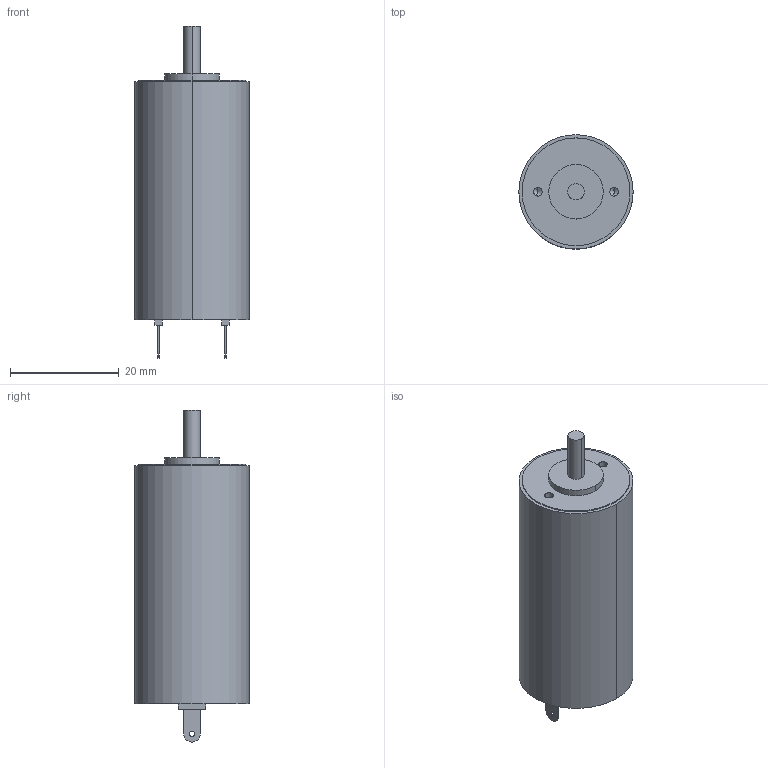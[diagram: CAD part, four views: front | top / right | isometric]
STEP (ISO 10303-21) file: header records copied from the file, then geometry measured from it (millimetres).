
FILE_DESCRIPTION (( 'STEP AP214' ), '1' );
FILE_NAME ('C-2144.STEP', '2024-11-12T06:46:48', ( '' ), ( '' ), 'SwSTEP 2.0', 'SolidWorks 2024', '' );
FILE_SCHEMA (( 'AUTOMOTIVE_DESIGN' ));
Length unit declared in the file: millimetre
Products named in the file (1): C-2144
Bounding box: 21 x 21 x 61 mm (x, y, z)
Volume: 15398.7 mm3; surface area: 3844.8 mm2
Topology: 1 solids, 1 shells, 45 faces, 104 edges, 66 vertices
Faces by surface type: plane 23, cylinder 18, cone 4
Entity records: 1285 total; most frequent: DIRECTION 228, CARTESIAN_POINT 212, ORIENTED_EDGE 200, EDGE_CURVE 100, AXIS2_PLACEMENT_3D 82, VERTEX_POINT 66, VECTOR 64, LINE 64
